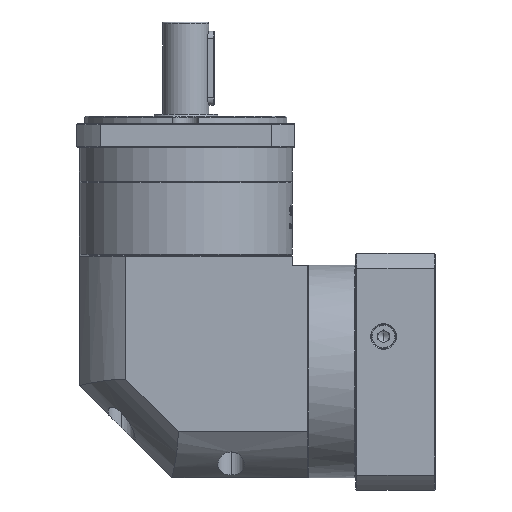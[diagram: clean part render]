
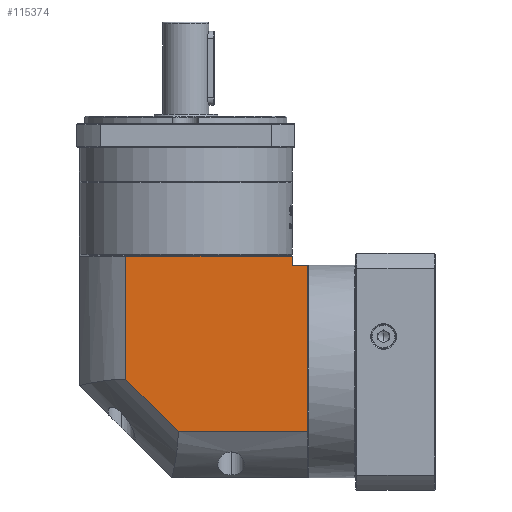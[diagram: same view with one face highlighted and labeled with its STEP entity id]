
A CAD part, left-side view. The second image highlights one B-rep face of the part: STEP entity #115374.
In plain terms, the highlighted planar face has unit normal (-1, 0, 0).
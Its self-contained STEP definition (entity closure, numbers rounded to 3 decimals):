
#15135 = ORIENTED_EDGE ( 'NONE', *, *, #49493, .F. ) ;
#17738 = ORIENTED_EDGE ( 'NONE', *, *, #142929, .T. ) ;
#30501 = VECTOR ( 'NONE', #138498, 1000. ) ;
#30963 = CARTESIAN_POINT ( 'NONE',  ( -216.152, -127.904, 125.758 ) ) ;
#32606 = DIRECTION ( 'NONE',  ( 0., 0.707, 0.707 ) ) ;
#37978 = FACE_OUTER_BOUND ( 'NONE', #87920, .T. ) ;
#42242 = VERTEX_POINT ( 'NONE', #133674 ) ;
#46414 = CARTESIAN_POINT ( 'NONE',  ( -216.152, -127.904, 5.758 ) ) ;
#48068 = VERTEX_POINT ( 'NONE', #161532 ) ;
#49493 = EDGE_CURVE ( 'NONE', #150126, #111954, #170039, .T. ) ;
#53937 = ORIENTED_EDGE ( 'NONE', *, *, #117647, .F. ) ;
#59420 = LINE ( 'NONE', #46414, #120977 ) ;
#59960 = AXIS2_PLACEMENT_3D ( 'NONE', #127094, #87032, #125431 ) ;
#61740 = CARTESIAN_POINT ( 'NONE',  ( -216.152, -136.304, 132.258 ) ) ;
#67786 = LINE ( 'NONE', #135685, #90311 ) ;
#68731 = DIRECTION ( 'NONE',  ( 0., -1., 0. ) ) ;
#74080 = CARTESIAN_POINT ( 'NONE',  ( -216.152, -38.004, 132.258 ) ) ;
#74355 = LINE ( 'NONE', #159385, #164621 ) ;
#82210 = VECTOR ( 'NONE', #165741, 1000. ) ;
#83578 = VECTOR ( 'NONE', #109467, 1000. ) ;
#86300 = LINE ( 'NONE', #74080, #82210 ) ;
#87032 = DIRECTION ( 'NONE',  ( 1., 0., 0. ) ) ;
#87609 = PLANE ( 'NONE',  #59960 ) ;
#87920 = EDGE_LOOP ( 'NONE', ( #154365, #95981, #53937, #15135, #17738, #128280, #117622 ) ) ;
#89686 = EDGE_CURVE ( 'NONE', #99064, #151906, #59420, .T. ) ;
#90311 = VECTOR ( 'NONE', #68731, 1000. ) ;
#92210 = EDGE_CURVE ( 'NONE', #42242, #142461, #165892, .T. ) ;
#94589 = DIRECTION ( 'NONE',  ( 0., 1., 0. ) ) ;
#95981 = ORIENTED_EDGE ( 'NONE', *, *, #92210, .F. ) ;
#96745 = CARTESIAN_POINT ( 'NONE',  ( -216.152, -136.304, 120.758 ) ) ;
#98297 = CARTESIAN_POINT ( 'NONE',  ( -216.152, -136.304, 30.858 ) ) ;
#99064 = VERTEX_POINT ( 'NONE', #145937 ) ;
#106661 = CARTESIAN_POINT ( 'NONE',  ( -216.152, -66.343, 30.858 ) ) ;
#109467 = DIRECTION ( 'NONE',  ( 0., 1., 0. ) ) ;
#111954 = VERTEX_POINT ( 'NONE', #98297 ) ;
#115374 = ADVANCED_FACE ( 'NONE', ( #37978 ), #87609, .F. ) ;
#117622 = ORIENTED_EDGE ( 'NONE', *, *, #135375, .F. ) ;
#117647 = EDGE_CURVE ( 'NONE', #111954, #42242, #128735, .T. ) ;
#120977 = VECTOR ( 'NONE', #138125, 1000. ) ;
#123536 = EDGE_CURVE ( 'NONE', #142461, #48068, #86300, .T. ) ;
#125431 = DIRECTION ( 'NONE',  ( 0., 1., 0. ) ) ;
#127094 = CARTESIAN_POINT ( 'NONE',  ( -216.152, -12.904, 132.258 ) ) ;
#128280 = ORIENTED_EDGE ( 'NONE', *, *, #89686, .T. ) ;
#128735 = LINE ( 'NONE', #162225, #83578 ) ;
#133674 = CARTESIAN_POINT ( 'NONE',  ( -216.152, -66.343, 30.858 ) ) ;
#135375 = EDGE_CURVE ( 'NONE', #48068, #151906, #67786, .T. ) ;
#135685 = CARTESIAN_POINT ( 'NONE',  ( -216.152, -12.904, 125.758 ) ) ;
#138125 = DIRECTION ( 'NONE',  ( 0., 0., 1. ) ) ;
#138498 = DIRECTION ( 'NONE',  ( 0., 0., -1. ) ) ;
#141033 = CARTESIAN_POINT ( 'NONE',  ( -216.152, -38.004, 59.196 ) ) ;
#142461 = VERTEX_POINT ( 'NONE', #141033 ) ;
#142929 = EDGE_CURVE ( 'NONE', #150126, #99064, #74355, .T. ) ;
#145937 = CARTESIAN_POINT ( 'NONE',  ( -216.152, -127.904, 120.758 ) ) ;
#150126 = VERTEX_POINT ( 'NONE', #96745 ) ;
#151906 = VERTEX_POINT ( 'NONE', #30963 ) ;
#154365 = ORIENTED_EDGE ( 'NONE', *, *, #123536, .F. ) ;
#157673 = VECTOR ( 'NONE', #32606, 1000. ) ;
#159385 = CARTESIAN_POINT ( 'NONE',  ( -216.152, -127.904, 120.758 ) ) ;
#161532 = CARTESIAN_POINT ( 'NONE',  ( -216.152, -38.004, 125.758 ) ) ;
#162225 = CARTESIAN_POINT ( 'NONE',  ( -216.152, -12.904, 30.858 ) ) ;
#164621 = VECTOR ( 'NONE', #94589, 1000. ) ;
#165741 = DIRECTION ( 'NONE',  ( 0., 0., 1. ) ) ;
#165892 = LINE ( 'NONE', #106661, #157673 ) ;
#170039 = LINE ( 'NONE', #61740, #30501 ) ;
